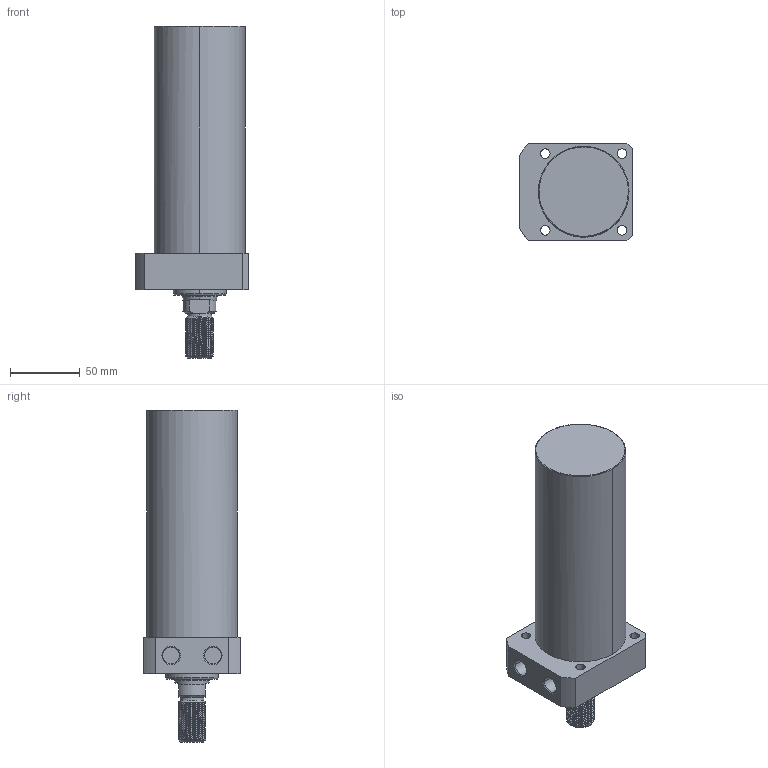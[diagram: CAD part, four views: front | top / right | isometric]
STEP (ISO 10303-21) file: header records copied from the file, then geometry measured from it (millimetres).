
FILE_DESCRIPTION((' '),'2;1');
FILE_NAME( 'TLLR-065CT-130.STEP.stp', '2025-10-24T16:35:01', (' '), ('--- Datakit www.datakit.com---'), ' Datakit CrossCadWare V2024.1 Dec 21 2023', 'Mastercam 2025', ' ');
FILE_SCHEMA(('AUTOMOTIVE_DESIGN { 1 0 10303 214 1 1 1 1 }'));
Length unit declared in the file: millimetre
Products named in the file (1): TLLR-065CT-130
Bounding box: 81 x 70 x 238 mm (x, y, z)
Volume: 697453.8 mm3; surface area: 59767.2 mm2
Topology: 1 solids, 1 shells, 105 faces, 378 edges, 283 vertices
Faces by surface type: cylinder 66, plane 20, cone 15, bspline 2, torus 2
Entity records: 12036 total; most frequent: CARTESIAN_POINT 8810, ORIENTED_EDGE 756, DIRECTION 528, EDGE_CURVE 378, VERTEX_POINT 283, AXIS2_PLACEMENT_3D 213, B_SPLINE_CURVE_WITH_KNOTS 167, EDGE_LOOP 121
